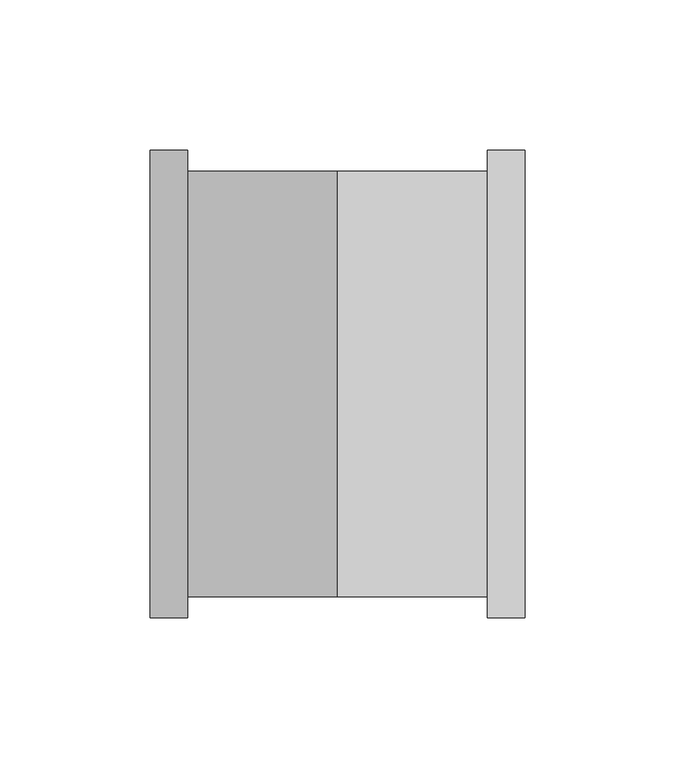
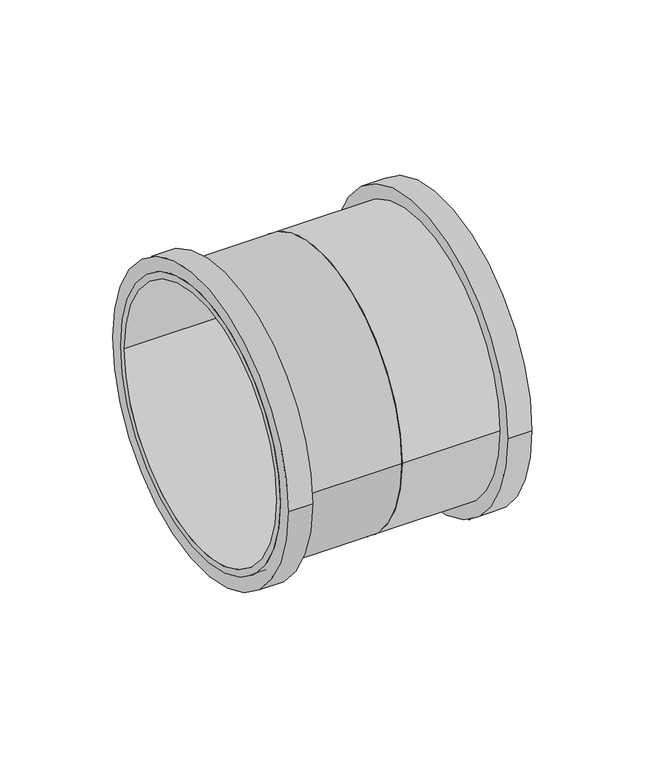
"""IFC4 building model written with IfcOpenShell, lengths in millimetres: pipe fitting geometry, Superdrain SKU-coupler : Superdrain SKU-coupler."""

from ifc_helpers import new_model, si_unit, point, frame, origin, origin_2d, place, context, project, spatial, circle_curve, trimmed, segment, composite_curve, outline, extrude, source, transform, mapped, element, save


def pipe_fitting_3a01ebc7(model_context):
    return source(origin(), model_context, "Body", "SweptSolid", [
        extrude(outline(composite_curve([segment(trimmed(circle_curve(origin_2d(), 70.875), [point((70.875, 0.0))], [point((-70.875, 0.0))], False, "CARTESIAN"), True, "CONTINUOUS"), segment(trimmed(circle_curve(origin_2d(), 70.875), [point((-70.875, 0.0))], [point((70.875, 0.0))], False, "CARTESIAN"), True, "CONTINUOUS")], self_intersect=False), holes=[composite_curve([segment(trimmed(circle_curve(origin_2d(), 67.5), [point((67.5, 0.0))], [point((-67.5, 0.0))], True, "CARTESIAN"), True, "CONTINUOUS"), segment(trimmed(circle_curve(origin_2d(), 67.5), [point((-67.5, 0.0))], [point((67.5, 0.0))], True, "CARTESIAN"), True, "CONTINUOUS")], self_intersect=False)]), frame((0.0, 0.0, 0.0), z_axis=(1.0, 0.0, 0.0), x_axis=(0.0, 1.0, 0.0)), (0.0, 0.0, 1.0), 62.5),
        extrude(outline(composite_curve([segment(trimmed(circle_curve(origin_2d(), 77.9625), [point((77.9625, 0.0))], [point((-77.9625, 0.0))], False, "CARTESIAN"), True, "CONTINUOUS"), segment(trimmed(circle_curve(origin_2d(), 77.9625), [point((-77.9625, 0.0))], [point((77.9625, 0.0))], False, "CARTESIAN"), True, "CONTINUOUS")], self_intersect=False), holes=[composite_curve([segment(trimmed(circle_curve(origin_2d(), 67.5), [point((67.5, 0.0))], [point((-67.5, 0.0))], True, "CARTESIAN"), True, "CONTINUOUS"), segment(trimmed(circle_curve(origin_2d(), 67.5), [point((-67.5, 0.0))], [point((67.5, 0.0))], True, "CARTESIAN"), True, "CONTINUOUS")], self_intersect=False)]), frame((50.0, 0.0, 0.0), z_axis=(1.0, 0.0, 0.0), x_axis=(0.0, 1.0, 0.0)), (0.0, 0.0, 1.0), 12.5),
        extrude(outline(composite_curve([segment(trimmed(circle_curve(origin_2d(), 70.875), [point((-70.875, 0.0))], [point((70.875, 0.0))], False, "CARTESIAN"), True, "CONTINUOUS"), segment(trimmed(circle_curve(origin_2d(), 70.875), [point((70.875, 0.0))], [point((-70.875, 0.0))], False, "CARTESIAN"), True, "CONTINUOUS")], self_intersect=False), holes=[composite_curve([segment(trimmed(circle_curve(origin_2d(), 67.5), [point((-67.5, 0.0))], [point((67.5, 0.0))], True, "CARTESIAN"), True, "CONTINUOUS"), segment(trimmed(circle_curve(origin_2d(), 67.5), [point((67.5, 0.0))], [point((-67.5, 0.0))], True, "CARTESIAN"), True, "CONTINUOUS")], self_intersect=False)]), frame((-62.5, 0.0, 0.0), z_axis=(1.0, 0.0, 0.0), x_axis=(0.0, 1.0, 0.0)), (0.0, 0.0, 1.0), 62.5),
        extrude(outline(composite_curve([segment(trimmed(circle_curve(origin_2d(), 77.9625), [point((-77.9625, 0.0))], [point((77.9625, 0.0))], False, "CARTESIAN"), True, "CONTINUOUS"), segment(trimmed(circle_curve(origin_2d(), 77.9625), [point((77.9625, 0.0))], [point((-77.9625, 0.0))], False, "CARTESIAN"), True, "CONTINUOUS")], self_intersect=False), holes=[composite_curve([segment(trimmed(circle_curve(origin_2d(), 67.5), [point((-67.5, 0.0))], [point((67.5, 0.0))], True, "CARTESIAN"), True, "CONTINUOUS"), segment(trimmed(circle_curve(origin_2d(), 67.5), [point((67.5, 0.0))], [point((-67.5, 0.0))], True, "CARTESIAN"), True, "CONTINUOUS")], self_intersect=False)]), frame((-62.5, 0.0, 0.0), z_axis=(1.0, 0.0, 0.0), x_axis=(0.0, 1.0, 0.0)), (0.0, 0.0, 1.0), 12.5),
    ])


if __name__ == "__main__":
    model = new_model("IFC4")
    model_context = context("Model", 3, world=origin())
    ifc_project = project(units=[si_unit("LENGTHUNIT", "METRE", prefix="MILLI")], contexts=[model_context])
    site = spatial("IfcSite", under=ifc_project)
    building = spatial("IfcBuilding", under=site)
    placement = place(None, origin())
    pipe_fitting_shape = pipe_fitting_3a01ebc7(model_context)
    element("IfcPipeFitting", 1, ObjectType="Superdrain SKU-coupler : Superdrain SKU-coupler", at=placement, inside=building, context=model_context, shape_type="MappedRepresentation", body=[
        mapped(pipe_fitting_shape, transform((0.0, 0.0, 0.0), x_axis=(1.0, 0.0, 0.0), y_axis=(0.0, 1.0, 0.0), z_axis=(0.0, 0.0, 1.0))),
    ])
    save(model, "model.ifc")
